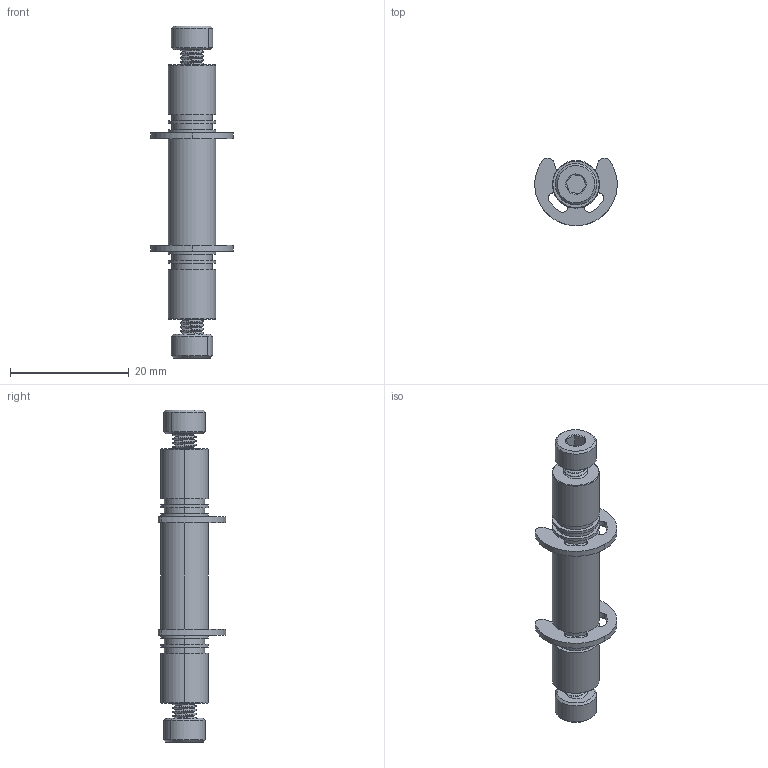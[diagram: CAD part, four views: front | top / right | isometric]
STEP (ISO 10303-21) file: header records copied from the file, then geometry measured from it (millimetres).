
FILE_DESCRIPTION (( 'STEP AP203' ), '1' );
FILE_NAME ('1523-0008-0430 assembly.STEP', '2021-06-01T16:42:59', ( '' ), ( '' ), 'SwSTEP 2.0', 'SolidWorks 2016', '' );
FILE_SCHEMA (( 'CONFIG_CONTROL_DESIGN' ));
Length unit declared in the file: millimetre
Products named in the file (4): 2800-0004-0008_90128A207; 1523-0008-0430 standoff; 1523-0008-0430 e-clip; 1523-0008-0430 assembly
Assembly tree (5 placements, depth 2):
  1523-0008-0430 assembly
    1523-0008-0430 standoff
    2800-0004-0008_90128A207  x2
    1523-0008-0430 e-clip  x2
Bounding box: 13.87 x 11.37 x 56 mm (x, y, z)
Volume: 2467.8 mm3; surface area: 2653.5 mm2
Topology: 5 solids, 5 shells, 350 faces, 928 edges, 602 vertices
Faces by surface type: cylinder 250, plane 52, cone 40, bspline 8
Entity records: 15161 total; most frequent: CARTESIAN_POINT 9252, ORIENTED_EDGE 1300, DIRECTION 1007, EDGE_CURVE 650, VERTEX_POINT 425, AXIS2_PLACEMENT_3D 390, EDGE_LOOP 263, ADVANCED_FACE 247
